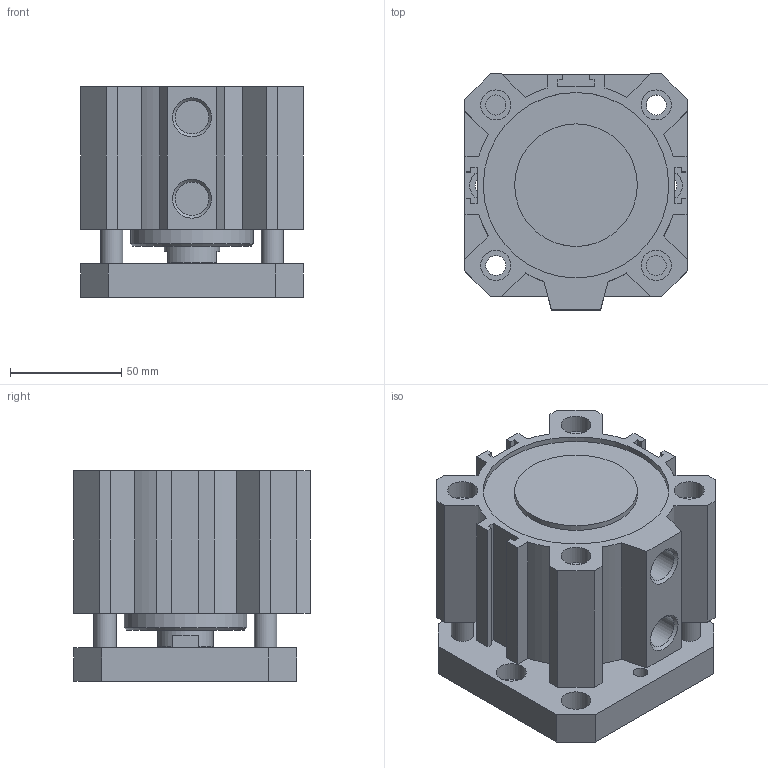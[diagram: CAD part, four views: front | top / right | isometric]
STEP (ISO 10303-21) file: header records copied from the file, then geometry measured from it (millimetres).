
FILE_DESCRIPTION(/* description */ (''),/* implementation_level */ '2;1');
FILE_NAME(/* name */ 'I:\Area Tecnica\Disegni\VARIE-3D\Componenti\1500\Ø80\15##_80_####_#\1501_80_0020_AR.stp',/* time_stamp */ '2016-08-24T14:11:54+02:00',/* author */ ('Maniean1'),/* organization */ ('Pneumax S.p.A.'),/* preprocessor_version */ 'ST-DEVELOPER v15.2',/* originating_system */ 'Autodesk Inventor 2014',/* authorisation */ '');
FILE_SCHEMA (('AUTOMOTIVE_DESIGN { 1 0 10303 214 3 1 1 }'));
Length unit declared in the file: millimetre
Products named in the file (3): C_1501_80_0020_AR; S_1501_80_0020_AR; 1501_80_0020_AR
Bounding box: 100 x 106 x 94.5 mm (x, y, z)
Volume: 582306.8 mm3; surface area: 131472.2 mm2
Topology: 2 solids, 2 shells, 139 faces, 341 edges, 228 vertices
Faces by surface type: plane 94, cylinder 40, cone 5
Full cylindrical faces by diameter (mm): 6.647 x2, 8.5 x2, 9 x4, 10 x4, 13.5 x10, 14.95 x2, 25 x2, 55 x2, 80 x2, 83.2 x2
Entity records: 4083 total; most frequent: CARTESIAN_POINT 674, DIRECTION 672, ORIENTED_EDGE 600, EDGE_CURVE 300, AXIS2_PLACEMENT_3D 232, VERTEX_POINT 222, EDGE_LOOP 216, LINE 208
